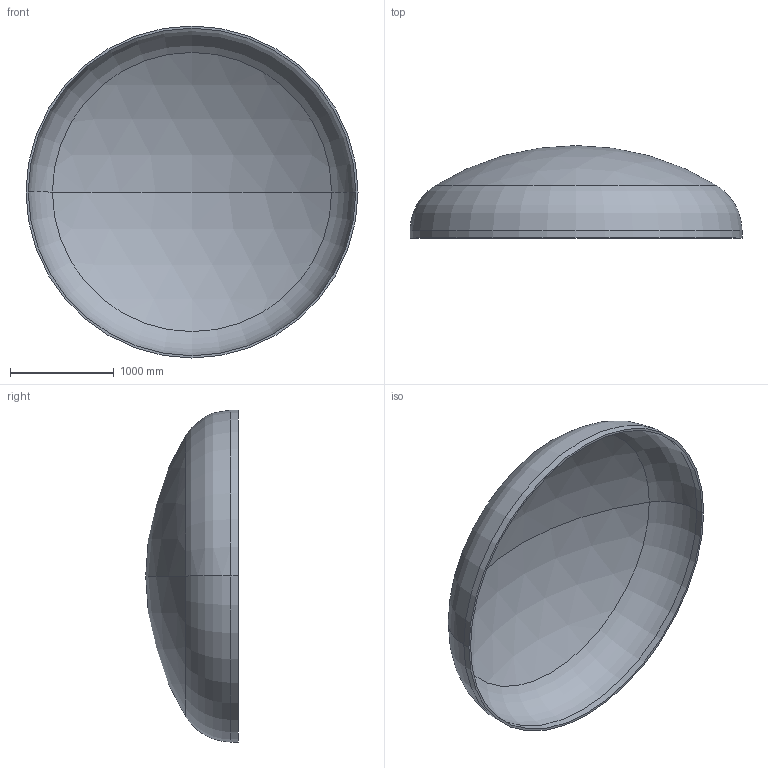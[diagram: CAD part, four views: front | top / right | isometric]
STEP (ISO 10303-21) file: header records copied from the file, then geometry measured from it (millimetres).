
FILE_DESCRIPTION (( 'STEP AP203' ), '1' );
FILE_NAME ('DIN 28013 Korbbogenform_-_Boden DIN 28013 - 3200 x 70 - I - s=22.step', '2016-07-01T18:25:16', ( '' ), ( '' ), 'SwSTEP 2.0', 'SolidWorks 2013', '' );
FILE_SCHEMA (( 'CONFIG_CONTROL_DESIGN' ));
Length unit declared in the file: millimetre
Products named in the file (1): DIN 28013 Korbbogenform_-_Boden DIN 28013 - 3200 x 70 - I - s=22
Bounding box: 3200 x 890.99 x 3200 mm (x, y, z)
Volume: 257943527.1 mm3; surface area: 23670063.8 mm2
Topology: 1 solids, 1 shells, 13 faces, 24 edges, 14 vertices
Faces by surface type: torus 4, cylinder 4, sphere 4, plane 1
Entity records: 407 total; most frequent: DIRECTION 72, CARTESIAN_POINT 52, ORIENTED_EDGE 48, AXIS2_PLACEMENT_3D 34, EDGE_CURVE 24, CIRCLE 20, VERTEX_POINT 14, EDGE_LOOP 14
